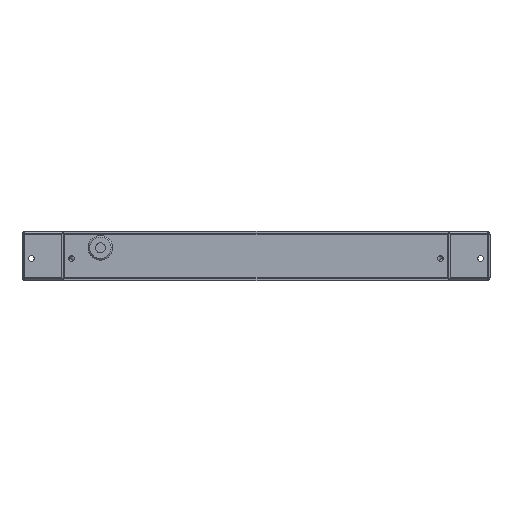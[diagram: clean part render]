
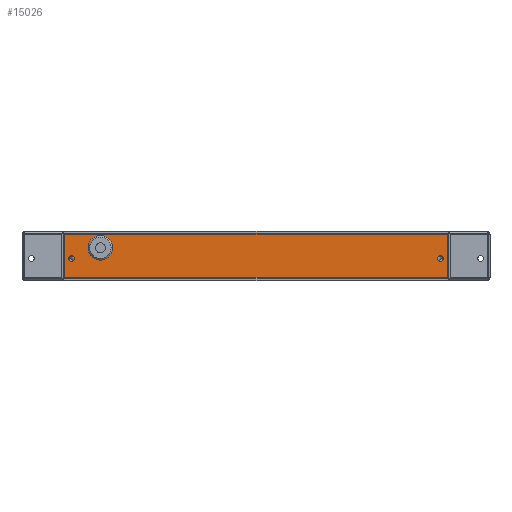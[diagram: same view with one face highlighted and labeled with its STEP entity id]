
A CAD part, front view. The second image highlights one B-rep face of the part: STEP entity #15026.
In plain terms, the highlighted planar face has unit normal (0, -1, 0).
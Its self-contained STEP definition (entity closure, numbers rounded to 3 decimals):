
#1372 = CARTESIAN_POINT ( 'NONE',  ( -233.5, -2., 0. ) ) ;
#1562 = CARTESIAN_POINT ( 'NONE',  ( -190., -2., -5. ) ) ;
#1611 = LINE ( 'NONE', #1859, #2456 ) ;
#1859 = CARTESIAN_POINT ( 'NONE',  ( 0., -2., -26.5 ) ) ;
#1860 = DIRECTION ( 'NONE',  ( 0., 0., 1. ) ) ;
#1866 = VECTOR ( 'NONE', #1860, 1000. ) ;
#2061 = DIRECTION ( 'NONE',  ( 0., -1., 0. ) ) ;
#2062 = CIRCLE ( 'NONE', #2082, 15. ) ;
#2068 = DIRECTION ( 'NONE',  ( 0., 0., -1. ) ) ;
#2072 = CARTESIAN_POINT ( 'NONE',  ( -190., -2., 10. ) ) ;
#2082 = AXIS2_PLACEMENT_3D ( 'NONE', #2072, #2061, #2068 ) ;
#2216 = DIRECTION ( 'NONE',  ( 0., 0., -1. ) ) ;
#2217 = DIRECTION ( 'NONE',  ( 0., -1., 0. ) ) ;
#2218 = CARTESIAN_POINT ( 'NONE',  ( -190., -2., 10. ) ) ;
#2225 = CARTESIAN_POINT ( 'NONE',  ( -190., -2., 25. ) ) ;
#2237 = CIRCLE ( 'NONE', #2248, 15. ) ;
#2248 = AXIS2_PLACEMENT_3D ( 'NONE', #2218, #2217, #2216 ) ;
#2304 = DIRECTION ( 'NONE',  ( 0., 0., -1. ) ) ;
#2305 = DIRECTION ( 'NONE',  ( 0., -1., 0. ) ) ;
#2306 = CARTESIAN_POINT ( 'NONE',  ( 225., -2., -3. ) ) ;
#2307 = CIRCLE ( 'NONE', #2352, 3.5 ) ;
#2312 = CARTESIAN_POINT ( 'NONE',  ( 225., -2., 0.5 ) ) ;
#2313 = CARTESIAN_POINT ( 'NONE',  ( 225., -2., -6.5 ) ) ;
#2352 = AXIS2_PLACEMENT_3D ( 'NONE', #2306, #2305, #2304 ) ;
#2355 = DIRECTION ( 'NONE',  ( 0., 0., -1. ) ) ;
#2356 = DIRECTION ( 'NONE',  ( 0., -1., 0. ) ) ;
#2357 = CARTESIAN_POINT ( 'NONE',  ( -225., -2., -3. ) ) ;
#2362 = CARTESIAN_POINT ( 'NONE',  ( -225., -2., 0.5 ) ) ;
#2371 = CIRCLE ( 'NONE', #2416, 3.5 ) ;
#2374 = CARTESIAN_POINT ( 'NONE',  ( -225., -2., -6.5 ) ) ;
#2416 = AXIS2_PLACEMENT_3D ( 'NONE', #2357, #2356, #2355 ) ;
#2439 = DIRECTION ( 'NONE',  ( -1., 0., 0. ) ) ;
#2456 = VECTOR ( 'NONE', #2439, 1000. ) ;
#2636 = DIRECTION ( 'NONE',  ( 0., 0., -1. ) ) ;
#2637 = DIRECTION ( 'NONE',  ( 0., -1., 0. ) ) ;
#2638 = CARTESIAN_POINT ( 'NONE',  ( -233.5, -2., 26.5 ) ) ;
#2644 = FACE_BOUND ( 'NONE', #14846, .T. ) ;
#2645 = AXIS2_PLACEMENT_3D ( 'NONE', #2669, #2637, #2636 ) ;
#2651 = FACE_BOUND ( 'NONE', #15023, .T. ) ;
#2660 = FACE_OUTER_BOUND ( 'NONE', #15324, .T. ) ;
#2665 = PLANE ( 'NONE',  #2645 ) ;
#2669 = CARTESIAN_POINT ( 'NONE',  ( 0., -2., 0. ) ) ;
#2681 = FACE_BOUND ( 'NONE', #15053, .T. ) ;
#2706 = LINE ( 'NONE', #1372, #1866 ) ;
#2732 = CARTESIAN_POINT ( 'NONE',  ( -233.5, -2., -26.5 ) ) ;
#2764 = DIRECTION ( 'NONE',  ( 1., 0., 0. ) ) ;
#2785 = VECTOR ( 'NONE', #2764, 1000. ) ;
#2786 = CARTESIAN_POINT ( 'NONE',  ( 0., -2., 26.5 ) ) ;
#2787 = LINE ( 'NONE', #2786, #2785 ) ;
#2813 = DIRECTION ( 'NONE',  ( 0., 0., -1. ) ) ;
#2814 = DIRECTION ( 'NONE',  ( 0., -1., 0. ) ) ;
#2840 = CARTESIAN_POINT ( 'NONE',  ( 233.5, -2., 26.5 ) ) ;
#2857 = CARTESIAN_POINT ( 'NONE',  ( -225., -2., -3. ) ) ;
#2858 = AXIS2_PLACEMENT_3D ( 'NONE', #2857, #2814, #2813 ) ;
#2859 = CIRCLE ( 'NONE', #2858, 3.5 ) ;
#2909 = LINE ( 'NONE', #2955, #2953 ) ;
#2914 = CIRCLE ( 'NONE', #2961, 3.5 ) ;
#2947 = DIRECTION ( 'NONE',  ( 0., 0., -1. ) ) ;
#2948 = DIRECTION ( 'NONE',  ( 0., -1., 0. ) ) ;
#2949 = CARTESIAN_POINT ( 'NONE',  ( 225., -2., -3. ) ) ;
#2952 = DIRECTION ( 'NONE',  ( 0., 0., -1. ) ) ;
#2953 = VECTOR ( 'NONE', #2952, 1000. ) ;
#2955 = CARTESIAN_POINT ( 'NONE',  ( 233.5, -2., 0. ) ) ;
#2961 = AXIS2_PLACEMENT_3D ( 'NONE', #2949, #2948, #2947 ) ;
#2962 = CARTESIAN_POINT ( 'NONE',  ( 233.5, -2., -26.5 ) ) ;
#13496 = VERTEX_POINT ( 'NONE', #1562 ) ;
#14420 = EDGE_CURVE ( 'NONE', #13496, #14438, #2237, .T. ) ;
#14438 = VERTEX_POINT ( 'NONE', #2225 ) ;
#14630 = EDGE_CURVE ( 'NONE', #14631, #14707, #2371, .T. ) ;
#14631 = VERTEX_POINT ( 'NONE', #2362 ) ;
#14649 = EDGE_CURVE ( 'NONE', #14654, #14655, #2307, .T. ) ;
#14654 = VERTEX_POINT ( 'NONE', #2312 ) ;
#14655 = VERTEX_POINT ( 'NONE', #2313 ) ;
#14707 = VERTEX_POINT ( 'NONE', #2374 ) ;
#14755 = ORIENTED_EDGE ( 'NONE', *, *, #14630, .F. ) ;
#14757 = ORIENTED_EDGE ( 'NONE', *, *, #15190, .F. ) ;
#14846 = EDGE_LOOP ( 'NONE', ( #15145, #14854 ) ) ;
#14854 = ORIENTED_EDGE ( 'NONE', *, *, #15315, .F. ) ;
#14975 = ORIENTED_EDGE ( 'NONE', *, *, #15086, .F. ) ;
#15020 = ORIENTED_EDGE ( 'NONE', *, *, #15055, .F. ) ;
#15023 = EDGE_LOOP ( 'NONE', ( #15020, #15327 ) ) ;
#15026 = ADVANCED_FACE ( 'NONE', ( #2660, #2681, #2644, #2651 ), #2665, .T. ) ;
#15043 = VERTEX_POINT ( 'NONE', #2638 ) ;
#15053 = EDGE_LOOP ( 'NONE', ( #14755, #14757 ) ) ;
#15055 = EDGE_CURVE ( 'NONE', #14438, #13496, #2062, .T. ) ;
#15057 = EDGE_CURVE ( 'NONE', #15083, #15043, #2706, .T. ) ;
#15083 = VERTEX_POINT ( 'NONE', #2732 ) ;
#15086 = EDGE_CURVE ( 'NONE', #15043, #15274, #2787, .T. ) ;
#15145 = ORIENTED_EDGE ( 'NONE', *, *, #14649, .F. ) ;
#15190 = EDGE_CURVE ( 'NONE', #14707, #14631, #2859, .T. ) ;
#15274 = VERTEX_POINT ( 'NONE', #2840 ) ;
#15288 = ORIENTED_EDGE ( 'NONE', *, *, #15057, .F. ) ;
#15289 = EDGE_CURVE ( 'NONE', #15291, #15083, #1611, .T. ) ;
#15291 = VERTEX_POINT ( 'NONE', #2962 ) ;
#15308 = ORIENTED_EDGE ( 'NONE', *, *, #15289, .F. ) ;
#15310 = EDGE_CURVE ( 'NONE', #15274, #15291, #2909, .T. ) ;
#15315 = EDGE_CURVE ( 'NONE', #14655, #14654, #2914, .T. ) ;
#15316 = ORIENTED_EDGE ( 'NONE', *, *, #15310, .F. ) ;
#15324 = EDGE_LOOP ( 'NONE', ( #14975, #15288, #15308, #15316 ) ) ;
#15327 = ORIENTED_EDGE ( 'NONE', *, *, #14420, .F. ) ;
